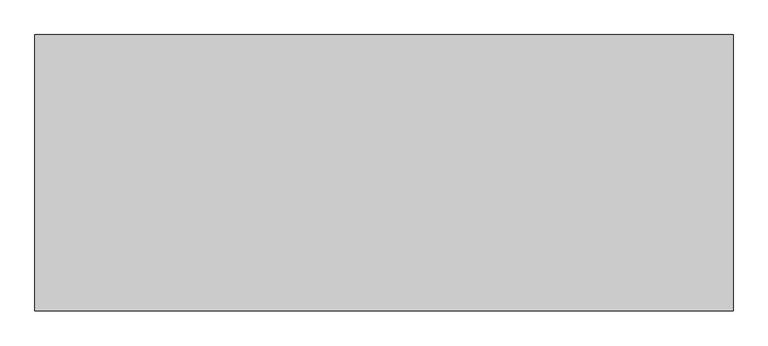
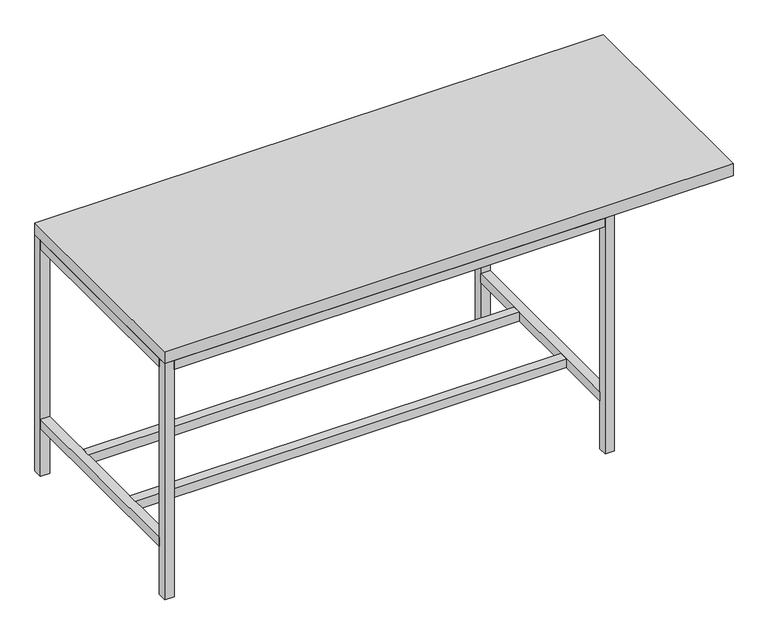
"""IFC4 building model written with IfcOpenShell, lengths in millimetres: furniture geometry, Haworth_Cultivate_Table : 42h 91w 36d - Top Overhang - Right 19w."""

import ifcopenshell
import ifcopenshell.guid

model = None  # the IFC model being written
_history = None  # IfcOwnerHistory: only IFC2X3 demands one
_inside = {}  # id of a spatial element -> (the spatial element, [elements in it])
_under = {}  # id of a project, library or spatial element -> (it, [spatial elements below it])
_declared = {}  # id of a project -> (the project, [libraries it declares])
_typed = {}  # id of a type object -> (the type object, [elements of that type])
_made_of = {}  # id of a material, layer set ... -> (it, [elements and type objects made of it])


def new_model(schema):
    """Start an empty IFC model of exactly this schema.

    Asked for "IFC4X3", IfcOpenShell would pick the latest addendum, in which some entities
    have other attributes; the version numbers below select the first issue.
    IFC2X3 requires an IfcOwnerHistory on every rooted entity: one is made here for all.
    """
    global model, _history
    if schema == "IFC4X3":
        model = ifcopenshell.file(schema_version=(4, 3, 0, 0))
    else:
        model = ifcopenshell.file(schema=schema)
    _inside.clear()
    _under.clear()
    _declared.clear()
    _typed.clear()
    _made_of.clear()
    _history = None
    if model.schema == "IFC2X3":
        org = make("IfcOrganization", Name="unknown")
        user = make(
            "IfcPersonAndOrganization",
            ThePerson=make("IfcPerson", FamilyName="unknown"),
            TheOrganization=org,
        )
        app = make(
            "IfcApplication",
            ApplicationDeveloper=org,
            Version="unknown",
            ApplicationFullName="unknown",
            ApplicationIdentifier="unknown",
        )
        _history = make(
            "IfcOwnerHistory",
            OwningUser=user,
            OwningApplication=app,
            ChangeAction="ADDED",
            CreationDate=0,
        )
    return model


def make(cls, **values):
    """One entity of the class cls with the attributes given. An attribute that is None is left unset."""
    return model.create_entity(
        cls, **{name: value for name, value in values.items() if value is not None}
    )


def rooted(cls, **values):
    """An entity with a GlobalId (a new one), such as an element, a storey or a relation."""
    return make(cls, GlobalId=ifcopenshell.guid.new(), OwnerHistory=_history, **values)


def si_unit(unit_type, name, prefix=None):
    """IfcSIUnit, for example si_unit("LENGTHUNIT", "METRE", prefix="MILLI")."""
    return make("IfcSIUnit", UnitType=unit_type, Prefix=prefix, Name=name)


def assignment(units):
    """IfcUnitAssignment: the units of a project."""
    return None if units is None else make("IfcUnitAssignment", Units=units)


def point(xyz):
    """IfcCartesianPoint."""
    return None if xyz is None else make("IfcCartesianPoint", Coordinates=xyz)


def direction(xyz):
    """IfcDirection."""
    return None if xyz is None else make("IfcDirection", DirectionRatios=xyz)


def frame(location, z_axis=None, x_axis=None):
    """IfcAxis2Placement3D, a coordinate frame: its origin and axes. An axis left out is left unset."""
    return make(
        "IfcAxis2Placement3D",
        Location=point(location),
        Axis=direction(z_axis),
        RefDirection=direction(x_axis),
    )


def origin():
    """The frame at (0, 0, 0) with its axes left unset."""
    return frame((0.0, 0.0, 0.0))


def origin_with_axes():
    """The frame at (0, 0, 0) with the z axis (0, 0, 1) and the x axis (1, 0, 0) written out."""
    return frame((0.0, 0.0, 0.0), z_axis=(0.0, 0.0, 1.0), x_axis=(1.0, 0.0, 0.0))


def place(relative_to, where):
    """IfcLocalPlacement: puts the frame where relative to a parent placement (None: the world)."""
    return make(
        "IfcLocalPlacement", PlacementRelTo=relative_to, RelativePlacement=where
    )


def context(
    kind, dimensions, precision=None, world=None, true_north=None, identifier=None
):
    """IfcGeometricRepresentationContext, for example the 3D "Model" context."""
    return make(
        "IfcGeometricRepresentationContext",
        ContextIdentifier=identifier,
        ContextType=kind,
        CoordinateSpaceDimension=dimensions,
        Precision=precision,
        WorldCoordinateSystem=world,
        TrueNorth=true_north,
    )


def project(units=None, contexts=None):
    """IfcProject with its units and contexts."""
    return rooted(
        "IfcProject",
        Name="project",
        RepresentationContexts=contexts,
        UnitsInContext=assignment(units),
    )


def spatial(cls, under=None, at=None, **own):
    """A site, building, storey or space (cls), placed at a placement, below another one or the project."""
    s = rooted(cls, ObjectPlacement=at, **own)
    if under is not None:
        _under.setdefault(under.id(), (under, []))[1].append(s)
    return s


def polyline(points):
    """IfcPolyline through the points."""
    return make("IfcPolyline", Points=[point(p) for p in points])


def outline(outer, holes=None, kind="AREA"):
    """IfcArbitraryClosedProfileDef: a profile drawn as a closed curve; with holes, ...WithVoids."""
    if holes is None:
        return make("IfcArbitraryClosedProfileDef", ProfileType=kind, OuterCurve=outer)
    return make(
        "IfcArbitraryProfileDefWithVoids",
        ProfileType=kind,
        OuterCurve=outer,
        InnerCurves=holes,
    )


def extrude(swept, where, along, depth):
    """IfcExtrudedAreaSolid: the profile swept, set in the frame where, extruded along a direction by depth."""
    return make(
        "IfcExtrudedAreaSolid",
        SweptArea=swept,
        Position=where,
        ExtrudedDirection=direction(along),
        Depth=depth,
    )


def shape(context_of_items, identifier, shape_type, items):
    """IfcShapeRepresentation: the items that make up one representation, for example the "Body"."""
    return make(
        "IfcShapeRepresentation",
        ContextOfItems=context_of_items,
        RepresentationIdentifier=identifier,
        RepresentationType=shape_type,
        Items=items,
    )


def source(mapping_origin, context_of_items, identifier, shape_type, items):
    """IfcRepresentationMap: a shape defined once, which mapped items show again and again."""
    return make(
        "IfcRepresentationMap",
        MappingOrigin=mapping_origin,
        MappedRepresentation=shape(context_of_items, identifier, shape_type, items),
    )


def transform(
    local_origin,
    x_axis=None,
    y_axis=None,
    z_axis=None,
    scale=None,
    scale2=None,
    scale3=None,
    uniform=True,
):
    """IfcCartesianTransformationOperator3D, or its non-uniform kind. x_axis, y_axis, z_axis: its Axis1, 2, 3."""
    if uniform:
        return make(
            "IfcCartesianTransformationOperator3D",
            Axis1=direction(x_axis),
            Axis2=direction(y_axis),
            LocalOrigin=point(local_origin),
            Scale=scale,
            Axis3=direction(z_axis),
        )
    return make(
        "IfcCartesianTransformationOperator3DnonUniform",
        Axis1=direction(x_axis),
        Axis2=direction(y_axis),
        LocalOrigin=point(local_origin),
        Scale=scale,
        Axis3=direction(z_axis),
        Scale2=scale2,
        Scale3=scale3,
    )


def mapped(mapping_source, mapping_target):
    """IfcMappedItem: shows the shape of a source again, moved by a transform."""
    return make(
        "IfcMappedItem", MappingSource=mapping_source, MappingTarget=mapping_target
    )


def made_of(thing, what):
    """Note that an element or type object is made of a material, layer set ...; save() writes the relation."""
    if what is not None:
        _made_of.setdefault(what.id(), (what, []))[1].append(thing)
    return thing


def element(
    cls,
    number,
    at=None,
    inside=None,
    cuts=None,
    type_object=None,
    material=None,
    context=None,
    identifier="Body",
    shape_type=None,
    held_by="IfcProductDefinitionShape",
    body=None,
    shapes=None,
    **own,
):
    """One element of the class cls, such as IfcWall. Its Tag is "e" and its number.

    at: its placement. inside: the storey or other place that contains it. cuts: it is an
    opening in that element (IfcRelVoidsElement). A single representation is given by context,
    identifier, shape_type and body (its items); several are given by shapes. held_by: the class
    of the entity that holds the representations. save() writes the other relations.
    """
    e = rooted(cls, Tag="e%d" % number, ObjectPlacement=at, **own)
    if body is not None:
        shapes = [shape(context, identifier, shape_type, body)]
    if shapes is not None:
        e.Representation = make(held_by, Representations=shapes)
    if inside is not None:
        _inside.setdefault(inside.id(), (inside, []))[1].append(e)
    if cuts is not None:
        rooted(
            "IfcRelVoidsElement", RelatingBuildingElement=cuts, RelatedOpeningElement=e
        )
    if type_object is not None:
        _typed.setdefault(type_object.id(), (type_object, []))[1].append(e)
    return made_of(e, material)


def aggregate(whole, parts):
    """IfcRelAggregates: a whole, such as a stair, and the parts it consists of."""
    return rooted("IfcRelAggregates", RelatingObject=whole, RelatedObjects=parts)


def save(model, path):
    """Write the relations noted so far, then the file.

    IfcRelAggregates (storeys below a building ...), IfcRelContainedInSpatialStructure (elements
    in a storey), IfcRelDefinesByType, IfcRelAssociatesMaterial and IfcRelDeclares: one each for
    every whole, place, type object, material and project.
    """
    for whole, parts in _under.values():
        aggregate(whole, parts)
    for where, things in _inside.values():
        rooted(
            "IfcRelContainedInSpatialStructure",
            RelatedElements=things,
            RelatingStructure=where,
        )
    for kind, things in _typed.values():
        rooted("IfcRelDefinesByType", RelatedObjects=things, RelatingType=kind)
    for what, things in _made_of.values():
        rooted("IfcRelAssociatesMaterial", RelatedObjects=things, RelatingMaterial=what)
    for by, libraries in _declared.values():
        rooted("IfcRelDeclares", RelatingContext=by, RelatedDefinitions=libraries)
    model.write(path)


def furniture_b3af4977(model_context):
    return source(origin(), model_context, "Body", "SweptSolid", [
        extrude(outline(polyline([(7124.7, 445.5973297), (7124.7, -468.8026703), (4813.3, -468.8026703), (4813.3, 445.5973297), (7124.7, 445.5973297)])), frame((0.0, 0.0, 1016.0), z_axis=(0.0, 0.0, 1.0), x_axis=(1.0, 0.0, 0.0)), (0.0, 0.0, 1.0), 50.8),
        extrude(outline(polyline([(6604.0, 172.5473297), (6604.0, 134.4473297), (4851.4, 134.4473297), (4851.4, 172.5473297), (6604.0, 172.5473297)])), frame((0.0, 0.0, 206.375), z_axis=(0.0, 0.0, 1.0), x_axis=(1.0, 0.0, 0.0)), (0.0, 0.0, 1.0), 38.1),
        extrude(outline(polyline([(6604.0, -157.6527578), (6604.0, -195.7527578), (4851.4, -195.7527578), (4851.4, -157.6527578), (6604.0, -157.6527578)])), frame((0.0, 0.0, 206.375), z_axis=(0.0, 0.0, 1.0), x_axis=(1.0, 0.0, 0.0)), (0.0, 0.0, 1.0), 38.1),
        extrude(outline(polyline([(6604.0, 407.4973297), (4851.4, 407.4973297), (4851.4, 445.5973297), (6604.0, 445.5973297), (6604.0, 407.4973297)])), frame((0.0, 0.0, 977.9), z_axis=(0.0, 0.0, 1.0), x_axis=(1.0, 0.0, 0.0)), (0.0, 0.0, 1.0), 38.1),
        extrude(outline(polyline([(4851.4, -468.8026703), (4851.4, -430.7027578), (6604.0, -430.7027578), (6604.0, -468.8026703), (4851.4, -468.8026703)])), frame((0.0, 0.0, 977.9), z_axis=(0.0, 0.0, 1.0), x_axis=(1.0, 0.0, 0.0)), (0.0, 0.0, 1.0), 38.1),
        extrude(outline(polyline([(6604.0, -430.7027578), (6604.0, 407.4973297), (6642.1, 407.4973297), (6642.1, -430.7027578), (6604.0, -430.7027578)])), frame((0.0, 0.0, 977.9), z_axis=(0.0, 0.0, 1.0), x_axis=(1.0, 0.0, 0.0)), (0.0, 0.0, 1.0), 38.1),
        extrude(outline(polyline([(6604.0, -430.7027578), (6604.0, 407.4973297), (6642.1, 407.4973297), (6642.1, -430.7027578), (6604.0, -430.7027578)])), frame((0.0, 0.0, 206.375), z_axis=(0.0, 0.0, 1.0), x_axis=(1.0, 0.0, 0.0)), (0.0, 0.0, 1.0), 38.1),
        extrude(outline(polyline([(4813.3, -430.7027578), (4813.3, 407.4973297), (4851.4, 407.4973297), (4851.4, -430.7027578), (4813.3, -430.7027578)])), frame((0.0, 0.0, 206.375), z_axis=(0.0, 0.0, 1.0), x_axis=(1.0, 0.0, 0.0)), (0.0, 0.0, 1.0), 38.1),
        extrude(outline(polyline([(4813.3, -430.7027578), (4813.3, 407.4973297), (4851.4, 407.4973297), (4851.4, -430.7027578), (4813.3, -430.7027578)])), frame((0.0, 0.0, 977.9), z_axis=(0.0, 0.0, 1.0), x_axis=(1.0, 0.0, 0.0)), (0.0, 0.0, 1.0), 38.1),
        extrude(outline(polyline([(6642.1, 445.5973297), (6642.1, 407.4973297), (6604.0, 407.4973297), (6604.0, 445.5973297), (6642.1, 445.5973297)])), origin_with_axes(), (0.0, 0.0, 1.0), 1016.0),
        extrude(outline(polyline([(6642.1, -430.7027578), (6642.1, -468.8026703), (6604.0, -468.8026703), (6604.0, -430.7027578), (6642.1, -430.7027578)])), origin_with_axes(), (0.0, 0.0, 1.0), 1016.0),
        extrude(outline(polyline([(4851.4, -430.7027578), (4851.4, -468.8026703), (4813.3, -468.8026703), (4813.3, -430.7027578), (4851.4, -430.7027578)])), origin_with_axes(), (0.0, 0.0, 1.0), 1016.0),
        extrude(outline(polyline([(4851.4, 445.5973297), (4851.4, 407.4973297), (4813.3, 407.4973297), (4813.3, 445.5973297), (4851.4, 445.5973297)])), origin_with_axes(), (0.0, 0.0, 1.0), 1016.0),
    ])


if __name__ == "__main__":
    model = new_model("IFC4")
    model_context = context("Model", 3, world=origin())
    ifc_project = project(units=[si_unit("LENGTHUNIT", "METRE", prefix="MILLI")], contexts=[model_context])
    site = spatial("IfcSite", under=ifc_project)
    building = spatial("IfcBuilding", under=site)
    placement = place(None, origin())
    furniture_shape = furniture_b3af4977(model_context)
    element("IfcFurniture", 1, ObjectType="Haworth_Cultivate_Table : 42h 91w 36d - Top Overhang - Right 19w", at=placement, inside=building, context=model_context, shape_type="MappedRepresentation", body=[
        mapped(furniture_shape, transform((0.0, 0.0, 0.0), x_axis=(1.0, 0.0, 0.0), y_axis=(0.0, 1.0, 0.0), z_axis=(0.0, 0.0, 1.0))),
    ])
    save(model, "model.ifc")
